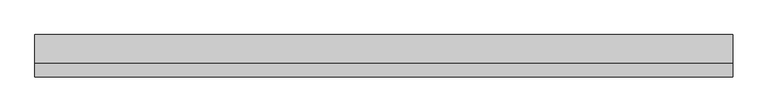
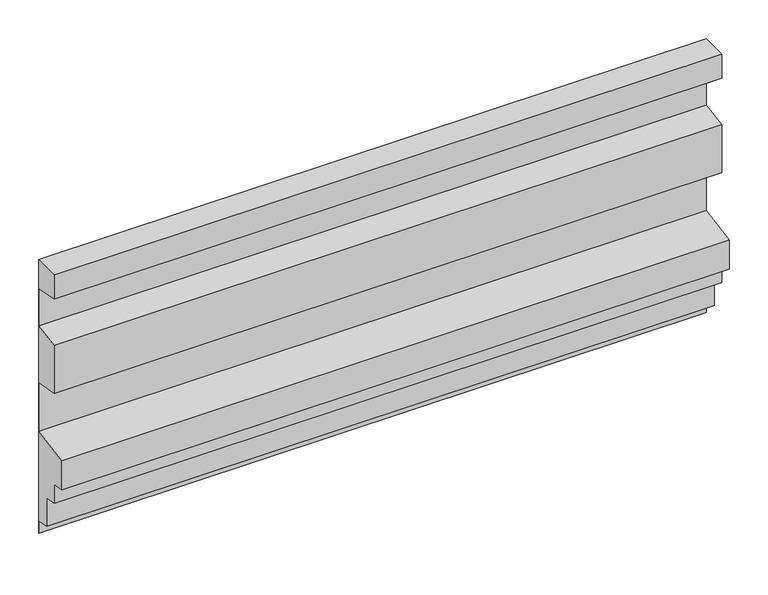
"""IFC4 building model written with IfcOpenShell, lengths in millimetres: plate geometry, ATELIERS 3S_NEW YORK MANHATTAN 780_HORIZONTAL : AZURO."""

from ifc_helpers import new_model, si_unit, frame, origin, place, context, project, spatial, polyline, outline, extrude, source, transform, mapped, element, save


def plate_c9064b48(model_context):
    return source(origin(), model_context, "Body", "SweptSolid", [
        extrude(outline(polyline([(-40.75, 395.003813), (-40.75, 433.4619218), (0.0, 433.4619218), (0.0, 0.0), (-0.8, 0.0), (-0.8, 19.6941775), (-20.7501589, 23.211221), (-20.7501589, 68.2118488), (-40.7500015, 71.7384174), (-40.7500015, 101.7384166), (-60.7500001, 105.2649565), (-60.7500001, 150.8942812), (-0.75, 161.4739), (-0.75, 238.8445753), (-40.75, 245.8976546), (-40.75, 321.5269793), (-0.75, 328.5800585), (-0.75, 387.9507338), (-40.75, 395.003813)])), frame((-500.0, 0.0, 0.0), z_axis=(1.0, 0.0, 0.0), x_axis=(0.0, 1.0, 0.0)), (0.0, 0.0, 1.0), 1000.0),
    ])


if __name__ == "__main__":
    model = new_model("IFC4")
    model_context = context("Model", 3, world=origin())
    ifc_project = project(units=[si_unit("LENGTHUNIT", "METRE", prefix="MILLI")], contexts=[model_context])
    site = spatial("IfcSite", under=ifc_project)
    building = spatial("IfcBuilding", under=site)
    placement = place(None, origin())
    plate_shape = plate_c9064b48(model_context)
    element("IfcPlate", 1, ObjectType="ATELIERS 3S_NEW YORK MANHATTAN 780_HORIZONTAL : AZURO", at=placement, inside=building, context=model_context, shape_type="MappedRepresentation", body=[
        mapped(plate_shape, transform((0.0, 0.0, 0.0), x_axis=(1.0, 0.0, 0.0), y_axis=(0.0, 1.0, 0.0), z_axis=(0.0, 0.0, 1.0))),
    ])
    save(model, "model.ifc")
